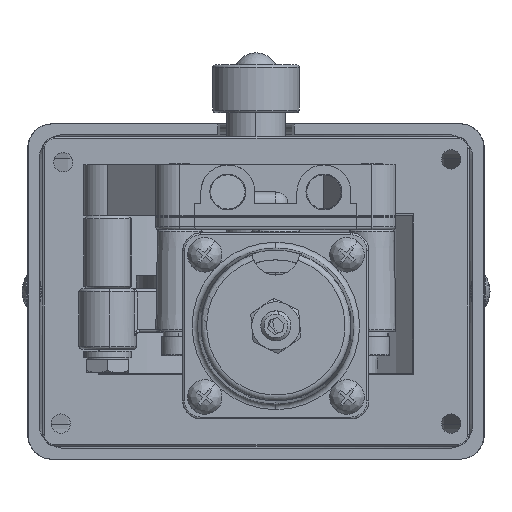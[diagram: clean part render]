
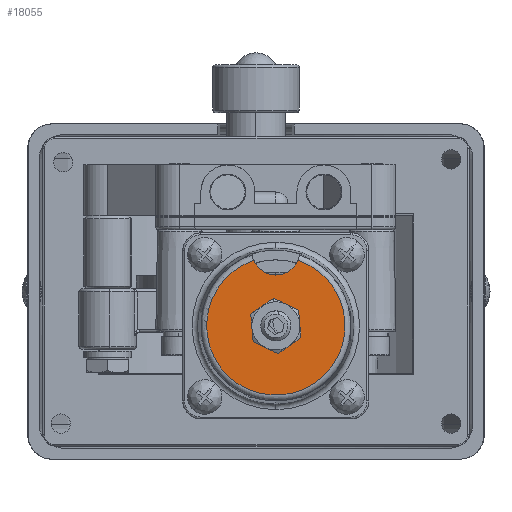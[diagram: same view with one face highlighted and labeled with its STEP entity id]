
A CAD part, front view. The second image highlights one B-rep face of the part: STEP entity #18055.
In plain terms, the highlighted planar face has unit normal (0, -1, 0).
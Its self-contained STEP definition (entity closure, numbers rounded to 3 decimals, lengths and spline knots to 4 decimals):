
#1628 = AXIS2_PLACEMENT_3D ( 'NONE', #29246, #35151, #1925 ) ;
#1925 = DIRECTION ( 'NONE',  ( 0., 0., 1. ) ) ;
#2444 = CIRCLE ( 'NONE', #29261, 0.25 ) ;
#2893 = FACE_BOUND ( 'NONE', #31250, .T. ) ;
#4218 = DIRECTION ( 'NONE',  ( 0., -1., 0. ) ) ;
#4448 = VERTEX_POINT ( 'NONE', #4527 ) ;
#4527 = CARTESIAN_POINT ( 'NONE',  ( -0.0238, 0.1, 0.6825 ) ) ;
#5569 = FACE_OUTER_BOUND ( 'NONE', #24019, .T. ) ;
#6049 = DIRECTION ( 'NONE',  ( 0., 0., 1. ) ) ;
#6093 = ORIENTED_EDGE ( 'NONE', *, *, #31954, .T. ) ;
#6259 = CARTESIAN_POINT ( 'NONE',  ( 0.2067, 0.1, 0. ) ) ;
#8581 = DIRECTION ( 'NONE',  ( 0., -1., 0. ) ) ;
#9230 = CARTESIAN_POINT ( 'NONE',  ( 0.2067, 0.1, 0. ) ) ;
#9653 = CARTESIAN_POINT ( 'NONE',  ( 0.4372, 0.1, 0.6825 ) ) ;
#10368 = VERTEX_POINT ( 'NONE', #9653 ) ;
#13412 = ORIENTED_EDGE ( 'NONE', *, *, #23518, .F. ) ;
#14585 = CARTESIAN_POINT ( 'NONE',  ( 0.2067, 0.1, -0.25 ) ) ;
#15101 = DIRECTION ( 'NONE',  ( 0., 0., 1. ) ) ;
#18055 = ADVANCED_FACE ( 'NONE', ( #5569, #2893 ), #24671, .T. ) ;
#18118 = DIRECTION ( 'NONE',  ( 0., -1., 0. ) ) ;
#20600 = CARTESIAN_POINT ( 'NONE',  ( 0.2067, 0.1, 0. ) ) ;
#20781 = DIRECTION ( 'NONE',  ( 0., 0., 1. ) ) ;
#21708 = AXIS2_PLACEMENT_3D ( 'NONE', #20600, #18118, #20781 ) ;
#22307 = CARTESIAN_POINT ( 'NONE',  ( 0.2067, 0.1, 0. ) ) ;
#22472 = DIRECTION ( 'NONE',  ( 0., -1., 0. ) ) ;
#23518 = EDGE_CURVE ( 'NONE', #28228, #33034, #2444, .T. ) ;
#23763 = CIRCLE ( 'NONE', #30039, 0.25 ) ;
#24019 = EDGE_LOOP ( 'NONE', ( #34946, #6093 ) ) ;
#24433 = CIRCLE ( 'NONE', #1628, 0.25 ) ;
#24671 = PLANE ( 'NONE',  #32431 ) ;
#26287 = CIRCLE ( 'NONE', #21708, 0.7204 ) ;
#26522 = EDGE_CURVE ( 'NONE', #33034, #28228, #23763, .T. ) ;
#28228 = VERTEX_POINT ( 'NONE', #32819 ) ;
#28529 = EDGE_CURVE ( 'NONE', #4448, #10368, #24433, .T. ) ;
#29246 = CARTESIAN_POINT ( 'NONE',  ( 0.2067, 0.1, 0.7793 ) ) ;
#29261 = AXIS2_PLACEMENT_3D ( 'NONE', #9230, #22472, #6049 ) ;
#30039 = AXIS2_PLACEMENT_3D ( 'NONE', #22307, #4218, #15101 ) ;
#30382 = DIRECTION ( 'NONE',  ( 0., 0., 1. ) ) ;
#31250 = EDGE_LOOP ( 'NONE', ( #35053, #13412 ) ) ;
#31954 = EDGE_CURVE ( 'NONE', #4448, #10368, #26287, .T. ) ;
#32431 = AXIS2_PLACEMENT_3D ( 'NONE', #6259, #8581, #30382 ) ;
#32819 = CARTESIAN_POINT ( 'NONE',  ( 0.2067, 0.1, 0.25 ) ) ;
#33034 = VERTEX_POINT ( 'NONE', #14585 ) ;
#34946 = ORIENTED_EDGE ( 'NONE', *, *, #28529, .F. ) ;
#35053 = ORIENTED_EDGE ( 'NONE', *, *, #26522, .F. ) ;
#35151 = DIRECTION ( 'NONE',  ( 0., -1., 0. ) ) ;
